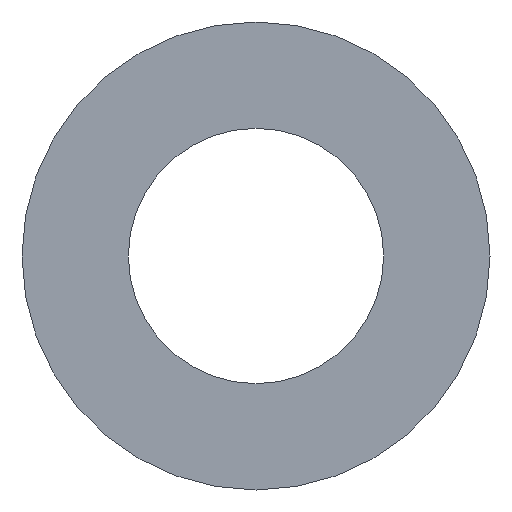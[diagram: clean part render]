
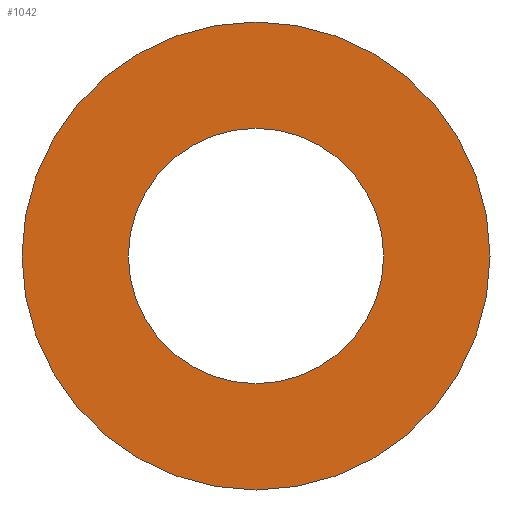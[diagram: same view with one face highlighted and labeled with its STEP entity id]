
A CAD part, front view. The second image highlights one B-rep face of the part: STEP entity #1042.
In plain terms, the highlighted planar face has unit normal (0, -1, 0).
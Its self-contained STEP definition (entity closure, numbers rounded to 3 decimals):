
#18 = DIRECTION ( 'NONE',  ( 0., 1., 0. ) ) ;
#34 = DIRECTION ( 'NONE',  ( 0., -1., 0. ) ) ;
#86 = ORIENTED_EDGE ( 'NONE', *, *, #302, .T. ) ;
#163 = DIRECTION ( 'NONE',  ( 0., 0., -1. ) ) ;
#252 = CARTESIAN_POINT ( 'NONE',  ( 0., -14., -27.5 ) ) ;
#275 = CIRCLE ( 'NONE', #624, 15. ) ;
#302 = EDGE_CURVE ( 'NONE', #2216, #2048, #1619, .T. ) ;
#319 = AXIS2_PLACEMENT_3D ( 'NONE', #2246, #18, #467 ) ;
#467 = DIRECTION ( 'NONE',  ( 0., 0., 1. ) ) ;
#472 = FACE_BOUND ( 'NONE', #2762, .T. ) ;
#510 = DIRECTION ( 'NONE',  ( 0., -1., 0. ) ) ;
#623 = CIRCLE ( 'NONE', #841, 27.5 ) ;
#624 = AXIS2_PLACEMENT_3D ( 'NONE', #2849, #1721, #163 ) ;
#717 = DIRECTION ( 'NONE',  ( 0., 0., -1. ) ) ;
#841 = AXIS2_PLACEMENT_3D ( 'NONE', #1807, #510, #2022 ) ;
#882 = CARTESIAN_POINT ( 'NONE',  ( 0., -14., 15. ) ) ;
#958 = FACE_OUTER_BOUND ( 'NONE', #1848, .T. ) ;
#985 = ORIENTED_EDGE ( 'NONE', *, *, #2559, .T. ) ;
#1007 = VERTEX_POINT ( 'NONE', #882 ) ;
#1029 = CARTESIAN_POINT ( 'NONE',  ( 0., -14., 0. ) ) ;
#1042 = ADVANCED_FACE ( 'NONE', ( #472, #958 ), #1132, .F. ) ;
#1110 = CIRCLE ( 'NONE', #1148, 15. ) ;
#1112 = CARTESIAN_POINT ( 'NONE',  ( 0., -14., 27.5 ) ) ;
#1132 = PLANE ( 'NONE',  #319 ) ;
#1148 = AXIS2_PLACEMENT_3D ( 'NONE', #2063, #34, #717 ) ;
#1242 = DIRECTION ( 'NONE',  ( 0., -1., 0. ) ) ;
#1619 = CIRCLE ( 'NONE', #2167, 27.5 ) ;
#1721 = DIRECTION ( 'NONE',  ( 0., -1., 0. ) ) ;
#1807 = CARTESIAN_POINT ( 'NONE',  ( 0., -14., 0. ) ) ;
#1848 = EDGE_LOOP ( 'NONE', ( #86, #985 ) ) ;
#1853 = ORIENTED_EDGE ( 'NONE', *, *, #2563, .F. ) ;
#1900 = EDGE_CURVE ( 'NONE', #1902, #1007, #275, .T. ) ;
#1902 = VERTEX_POINT ( 'NONE', #2829 ) ;
#1909 = ORIENTED_EDGE ( 'NONE', *, *, #1900, .F. ) ;
#2022 = DIRECTION ( 'NONE',  ( 0., 0., -1. ) ) ;
#2048 = VERTEX_POINT ( 'NONE', #1112 ) ;
#2063 = CARTESIAN_POINT ( 'NONE',  ( 0., -14., 0. ) ) ;
#2109 = DIRECTION ( 'NONE',  ( 0., 0., -1. ) ) ;
#2167 = AXIS2_PLACEMENT_3D ( 'NONE', #1029, #1242, #2109 ) ;
#2216 = VERTEX_POINT ( 'NONE', #252 ) ;
#2246 = CARTESIAN_POINT ( 'NONE',  ( 0., -14., 15. ) ) ;
#2559 = EDGE_CURVE ( 'NONE', #2048, #2216, #623, .T. ) ;
#2563 = EDGE_CURVE ( 'NONE', #1007, #1902, #1110, .T. ) ;
#2762 = EDGE_LOOP ( 'NONE', ( #1909, #1853 ) ) ;
#2829 = CARTESIAN_POINT ( 'NONE',  ( 0., -14., -15. ) ) ;
#2849 = CARTESIAN_POINT ( 'NONE',  ( 0., -14., 0. ) ) ;
